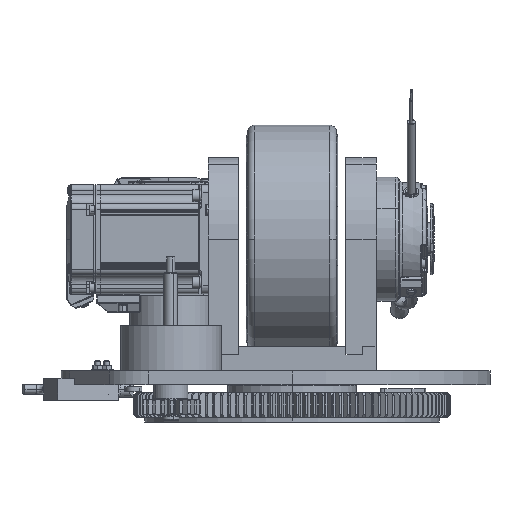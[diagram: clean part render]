
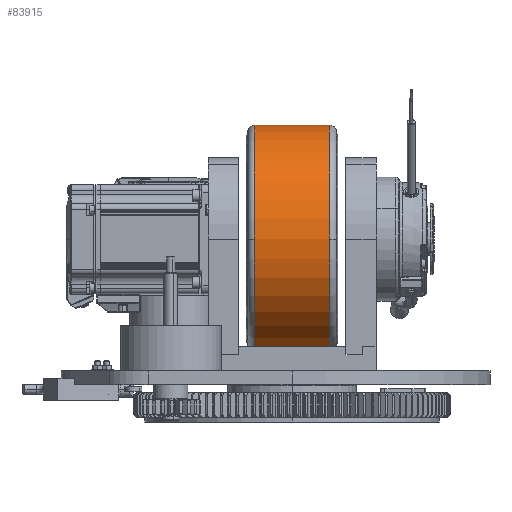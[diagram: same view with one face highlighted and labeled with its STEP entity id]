
A CAD part, front view. The second image highlights one B-rep face of the part: STEP entity #83915.
In plain terms, the highlighted cylindrical face has radius 83.5 mm (diameter 167 mm), a partial arc.
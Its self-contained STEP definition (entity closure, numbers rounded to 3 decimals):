
#6901 = CARTESIAN_POINT ( 'NONE',  ( -86.776, -82.783, 22.855 ) ) ;
#7092 = CARTESIAN_POINT ( 'NONE',  ( -31.693, 0.717, -60.645 ) ) ;
#20513 = CARTESIAN_POINT ( 'NONE',  ( -86.776, 0.717, -60.645 ) ) ;
#21687 = CARTESIAN_POINT ( 'NONE',  ( -31.693, -82.783, 22.855 ) ) ;
#40708 = CIRCLE ( 'NONE', #46645, 83.5 ) ;
#41256 = CIRCLE ( 'NONE', #46765, 83.5 ) ;
#41260 = CIRCLE ( 'NONE', #46767, 83.5 ) ;
#41282 = LINE ( 'NONE', #87840, #41288 ) ;
#41288 = VECTOR ( 'NONE', #87845, 1000. ) ;
#41313 = CIRCLE ( 'NONE', #46784, 83.5 ) ;
#41343 = LINE ( 'NONE', #88192, #41346 ) ;
#41346 = VECTOR ( 'NONE', #88198, 1000. ) ;
#46645 = AXIS2_PLACEMENT_3D ( 'NONE', #85584, #85587, #85589 ) ;
#46765 = AXIS2_PLACEMENT_3D ( 'NONE', #87744, #87747, #87751 ) ;
#46767 = AXIS2_PLACEMENT_3D ( 'NONE', #87761, #87764, #87768 ) ;
#46784 = AXIS2_PLACEMENT_3D ( 'NONE', #88101, #88105, #88108 ) ;
#83915 = ADVANCED_FACE ( 'NONE', ( #106344 ), #106365, .T. ) ;
#85584 = CARTESIAN_POINT ( 'NONE',  ( -86.776, 0.717, 22.855 ) ) ;
#85587 = DIRECTION ( 'NONE',  ( 1., 0., 0. ) ) ;
#85589 = DIRECTION ( 'NONE',  ( 0., 1., 0. ) ) ;
#85926 = VERTEX_POINT ( 'NONE', #141268 ) ;
#86107 = VERTEX_POINT ( 'NONE', #6901 ) ;
#86128 = VERTEX_POINT ( 'NONE', #7092 ) ;
#86348 = VERTEX_POINT ( 'NONE', #132020 ) ;
#86761 = VERTEX_POINT ( 'NONE', #20513 ) ;
#86979 = VERTEX_POINT ( 'NONE', #21687 ) ;
#87744 = CARTESIAN_POINT ( 'NONE',  ( -31.693, 0.717, 22.855 ) ) ;
#87747 = DIRECTION ( 'NONE',  ( -1., 0., 0. ) ) ;
#87751 = DIRECTION ( 'NONE',  ( 0., 1., 0. ) ) ;
#87761 = CARTESIAN_POINT ( 'NONE',  ( -86.776, 0.717, 22.855 ) ) ;
#87764 = DIRECTION ( 'NONE',  ( 1., 0., 0. ) ) ;
#87768 = DIRECTION ( 'NONE',  ( 0., 1., 0. ) ) ;
#87840 = CARTESIAN_POINT ( 'NONE',  ( -11.235, 0.717, 106.355 ) ) ;
#87845 = DIRECTION ( 'NONE',  ( 1., 0., 0. ) ) ;
#88101 = CARTESIAN_POINT ( 'NONE',  ( -31.693, 0.717, 22.855 ) ) ;
#88105 = DIRECTION ( 'NONE',  ( -1., 0., 0. ) ) ;
#88108 = DIRECTION ( 'NONE',  ( 0., 1., 0. ) ) ;
#88192 = CARTESIAN_POINT ( 'NONE',  ( -11.235, 0.717, -60.645 ) ) ;
#88198 = DIRECTION ( 'NONE',  ( 1., 0., 0. ) ) ;
#106344 = FACE_OUTER_BOUND ( 'NONE', #133996, .T. ) ;
#106365 = CYLINDRICAL_SURFACE ( 'NONE', #120019, 83.5 ) ;
#120019 = AXIS2_PLACEMENT_3D ( 'NONE', #190058, #190059, #190067 ) ;
#121566 = EDGE_CURVE ( 'NONE', #86107, #86761, #40708, .T. ) ;
#122181 = EDGE_CURVE ( 'NONE', #86128, #86979, #41256, .T. ) ;
#122184 = EDGE_CURVE ( 'NONE', #86348, #86107, #41260, .T. ) ;
#122209 = EDGE_CURVE ( 'NONE', #86348, #85926, #41282, .T. ) ;
#122278 = EDGE_CURVE ( 'NONE', #86979, #85926, #41313, .T. ) ;
#122306 = EDGE_CURVE ( 'NONE', #86761, #86128, #41343, .T. ) ;
#124537 = ORIENTED_EDGE ( 'NONE', *, *, #121566, .T. ) ;
#124539 = ORIENTED_EDGE ( 'NONE', *, *, #122209, .F. ) ;
#124629 = ORIENTED_EDGE ( 'NONE', *, *, #122278, .T. ) ;
#124632 = ORIENTED_EDGE ( 'NONE', *, *, #122306, .T. ) ;
#124648 = ORIENTED_EDGE ( 'NONE', *, *, #122184, .T. ) ;
#124658 = ORIENTED_EDGE ( 'NONE', *, *, #122181, .T. ) ;
#132020 = CARTESIAN_POINT ( 'NONE',  ( -86.776, 0.717, 106.355 ) ) ;
#133996 = EDGE_LOOP ( 'NONE', ( #124539, #124648, #124537, #124632, #124658, #124629 ) ) ;
#141268 = CARTESIAN_POINT ( 'NONE',  ( -31.693, 0.717, 106.355 ) ) ;
#190058 = CARTESIAN_POINT ( 'NONE',  ( -11.235, 0.717, 22.855 ) ) ;
#190059 = DIRECTION ( 'NONE',  ( 1., 0., 0. ) ) ;
#190067 = DIRECTION ( 'NONE',  ( 0., 0., -1. ) ) ;
